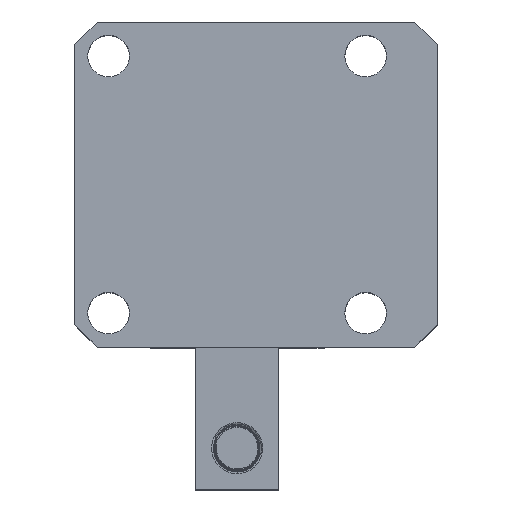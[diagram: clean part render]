
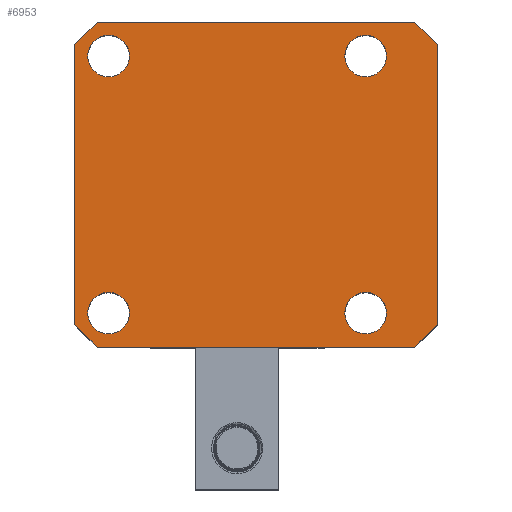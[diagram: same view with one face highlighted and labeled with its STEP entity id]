
A CAD part, top view. The second image highlights one B-rep face of the part: STEP entity #6953.
In plain terms, the highlighted planar face has unit normal (0, 0, 1).
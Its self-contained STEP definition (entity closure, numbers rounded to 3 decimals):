
#445=FACE_BOUND('',#1025,.T.);
#446=FACE_BOUND('',#1026,.T.);
#447=FACE_BOUND('',#1027,.T.);
#448=FACE_BOUND('',#1028,.T.);
#495=PLANE('',#7619);
#658=FACE_OUTER_BOUND('',#1024,.T.);
#1024=EDGE_LOOP('',(#5213,#5214,#5215,#5216,#5217,#5218,#5219,#5220));
#1025=EDGE_LOOP('',(#5221));
#1026=EDGE_LOOP('',(#5222));
#1027=EDGE_LOOP('',(#5223));
#1028=EDGE_LOOP('',(#5224));
#2005=LINE('',#11816,#2411);
#2006=LINE('',#11818,#2412);
#2007=LINE('',#11820,#2413);
#2008=LINE('',#11822,#2414);
#2009=LINE('',#11824,#2415);
#2010=LINE('',#11826,#2416);
#2011=LINE('',#11828,#2417);
#2012=LINE('',#11829,#2418);
#2411=VECTOR('',#8256,1000.);
#2412=VECTOR('',#8257,1000.);
#2413=VECTOR('',#8258,1000.);
#2414=VECTOR('',#8259,1000.);
#2415=VECTOR('',#8260,1000.);
#2416=VECTOR('',#8261,1000.);
#2417=VECTOR('',#8262,1000.);
#2418=VECTOR('',#8263,1000.);
#2785=CIRCLE('',#7580,5.5);
#2787=CIRCLE('',#7583,5.5);
#2789=CIRCLE('',#7586,5.5);
#2791=CIRCLE('',#7589,5.5);
#2985=VERTEX_POINT('',#10938);
#2987=VERTEX_POINT('',#10944);
#2989=VERTEX_POINT('',#10950);
#2991=VERTEX_POINT('',#10956);
#3038=VERTEX_POINT('',#11814);
#3039=VERTEX_POINT('',#11815);
#3040=VERTEX_POINT('',#11817);
#3041=VERTEX_POINT('',#11819);
#3042=VERTEX_POINT('',#11821);
#3043=VERTEX_POINT('',#11823);
#3044=VERTEX_POINT('',#11825);
#3045=VERTEX_POINT('',#11827);
#3936=EDGE_CURVE('',#2985,#2985,#2785,.T.);
#3939=EDGE_CURVE('',#2987,#2987,#2787,.T.);
#3942=EDGE_CURVE('',#2989,#2989,#2789,.T.);
#3945=EDGE_CURVE('',#2991,#2991,#2791,.T.);
#4021=EDGE_CURVE('',#3038,#3039,#2005,.T.);
#4022=EDGE_CURVE('',#3039,#3040,#2006,.T.);
#4023=EDGE_CURVE('',#3040,#3041,#2007,.T.);
#4024=EDGE_CURVE('',#3041,#3042,#2008,.T.);
#4025=EDGE_CURVE('',#3042,#3043,#2009,.T.);
#4026=EDGE_CURVE('',#3043,#3044,#2010,.T.);
#4027=EDGE_CURVE('',#3044,#3045,#2011,.T.);
#4028=EDGE_CURVE('',#3045,#3038,#2012,.T.);
#5213=ORIENTED_EDGE('',*,*,#4021,.T.);
#5214=ORIENTED_EDGE('',*,*,#4022,.T.);
#5215=ORIENTED_EDGE('',*,*,#4023,.T.);
#5216=ORIENTED_EDGE('',*,*,#4024,.T.);
#5217=ORIENTED_EDGE('',*,*,#4025,.T.);
#5218=ORIENTED_EDGE('',*,*,#4026,.T.);
#5219=ORIENTED_EDGE('',*,*,#4027,.T.);
#5220=ORIENTED_EDGE('',*,*,#4028,.T.);
#5221=ORIENTED_EDGE('',*,*,#3936,.T.);
#5222=ORIENTED_EDGE('',*,*,#3939,.T.);
#5223=ORIENTED_EDGE('',*,*,#3942,.T.);
#5224=ORIENTED_EDGE('',*,*,#3945,.T.);
#6953=ADVANCED_FACE('',(#658,#445,#446,#447,#448),#495,.T.);
#7580=AXIS2_PLACEMENT_3D('',#10940,#8161,#8162);
#7583=AXIS2_PLACEMENT_3D('',#10946,#8168,#8169);
#7586=AXIS2_PLACEMENT_3D('',#10952,#8175,#8176);
#7589=AXIS2_PLACEMENT_3D('',#10958,#8182,#8183);
#7619=AXIS2_PLACEMENT_3D('',#11813,#8254,#8255);
#8161=DIRECTION('center_axis',(0.,0.,
-1.));
#8162=DIRECTION('ref_axis',(0.,-1.,0.));
#8168=DIRECTION('center_axis',(0.,0.,-1.));
#8169=DIRECTION('ref_axis',(0.,-1.,0.));
#8175=DIRECTION('center_axis',(0.,0.,-1.));
#8176=DIRECTION('ref_axis',(0.,-1.,0.));
#8182=DIRECTION('center_axis',(0.,0.,
-1.));
#8183=DIRECTION('ref_axis',(0.,-1.,0.));
#8254=DIRECTION('center_axis',(0.,0.,1.));
#8255=DIRECTION('ref_axis',(1.,0.,0.));
#8256=DIRECTION('',(1.,0.,0.));
#8257=DIRECTION('',(0.707,0.707,0.));
#8258=DIRECTION('',(0.,1.,0.));
#8259=DIRECTION('',(-0.707,0.707,0.));
#8260=DIRECTION('',(-1.,0.,0.));
#8261=DIRECTION('',(-0.707,-0.707,0.));
#8262=DIRECTION('',(0.,-1.,0.));
#8263=DIRECTION('',(0.707,-0.707,0.));
#10938=CARTESIAN_POINT('',(-34.,39.5,47.5));
#10940=CARTESIAN_POINT('Origin',(-34.,34.,47.5));
#10944=CARTESIAN_POINT('',(34.,39.5,47.5));
#10946=CARTESIAN_POINT('Origin',(34.,34.,47.5));
#10950=CARTESIAN_POINT('',(34.,-28.5,47.5));
#10952=CARTESIAN_POINT('Origin',(34.,-34.,47.5));
#10956=CARTESIAN_POINT('',(-34.,-28.5,47.5));
#10958=CARTESIAN_POINT('Origin',(-34.,-34.,47.5));
#11813=CARTESIAN_POINT('Origin',(-43.,-43.,47.5));
#11814=CARTESIAN_POINT('',(-37.,-43.,47.5));
#11815=CARTESIAN_POINT('',(47.,-43.,47.5));
#11816=CARTESIAN_POINT('',(-43.,-43.,47.5));
#11817=CARTESIAN_POINT('',(53.,-37.,47.5));
#11818=CARTESIAN_POINT('',(47.,-43.,47.5));
#11819=CARTESIAN_POINT('',(53.,37.,47.5));
#11820=CARTESIAN_POINT('',(53.,-43.,47.5));
#11821=CARTESIAN_POINT('',(47.,43.,47.5));
#11822=CARTESIAN_POINT('',(53.,37.,47.5));
#11823=CARTESIAN_POINT('',(-37.,43.,47.5));
#11824=CARTESIAN_POINT('',(-43.,43.,47.5));
#11825=CARTESIAN_POINT('',(-43.,37.,47.5));
#11826=CARTESIAN_POINT('',(-37.,43.,47.5));
#11827=CARTESIAN_POINT('',(-43.,-37.,47.5));
#11828=CARTESIAN_POINT('',(-43.,-43.,47.5));
#11829=CARTESIAN_POINT('',(-43.,-37.,47.5));
